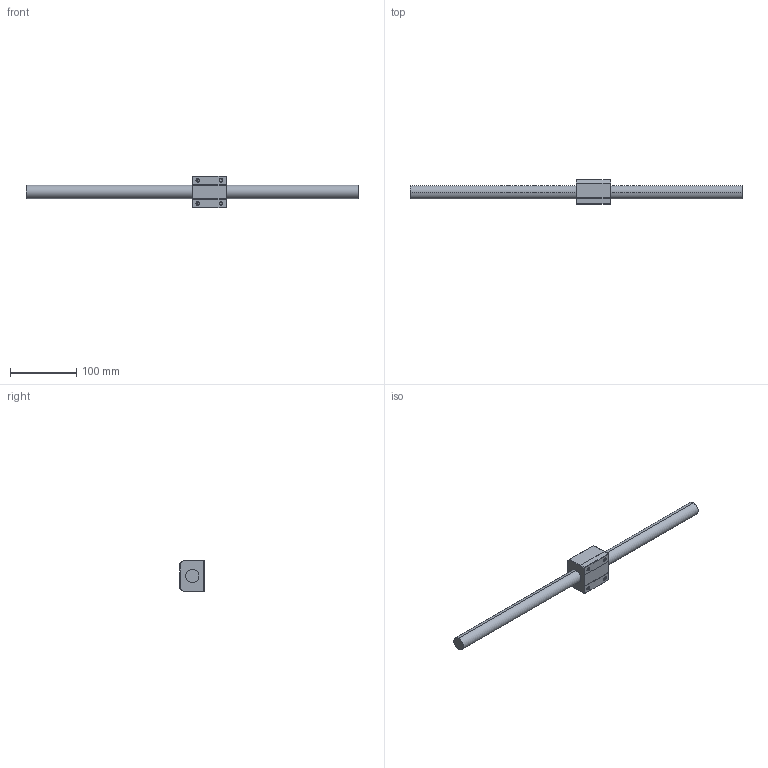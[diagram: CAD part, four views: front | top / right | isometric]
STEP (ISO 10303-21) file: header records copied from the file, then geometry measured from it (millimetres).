
FILE_DESCRIPTION (( 'STEP AP214' ), '1' );
FILE_NAME ('SFSQ2010©xºô3D.STEP', '2025-08-01T07:14:34', ( '' ), ( '' ), 'SwSTEP 2.0', 'SolidWorks 2024', '' );
FILE_SCHEMA (( 'AUTOMOTIVE_DESIGN' ));
Length unit declared in the file: millimetre
Products named in the file (3): 20桿; SFSQ2010_螺帽本體_內磨; SFSQ2010官網3D
Assembly tree (2 placements, depth 2):
  SFSQ2010官網3D
    SFSQ2010_螺帽本體_內磨
    20桿
Bounding box: 500 x 37 x 48 mm (x, y, z)
Volume: 229372.9 mm3; surface area: 48018.8 mm2
Topology: 2 solids, 2 shells, 180 faces, 492 edges, 313 vertices
Faces by surface type: cylinder 108, plane 47, bspline 15, cone 10
Entity records: 13200 total; most frequent: CARTESIAN_POINT 9314, ORIENTED_EDGE 968, DIRECTION 621, EDGE_CURVE 484, VERTEX_POINT 313, VECTOR 231, LINE 231, AXIS2_PLACEMENT_3D 195
